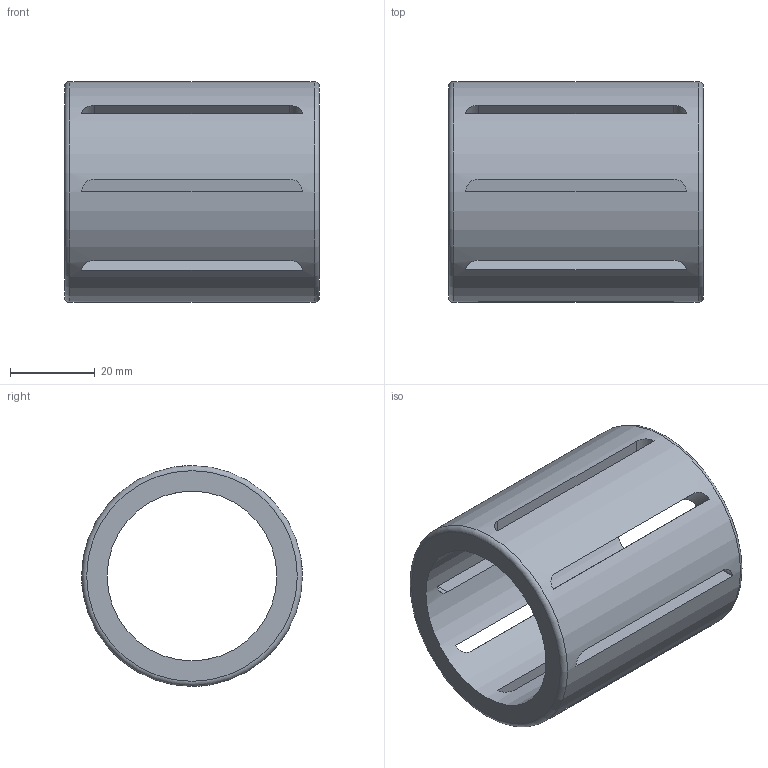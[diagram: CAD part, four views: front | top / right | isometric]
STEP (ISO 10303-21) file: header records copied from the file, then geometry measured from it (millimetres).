
FILE_DESCRIPTION(/* description */ ('Unknown'),/* implementation_level */ '2;1');
FILE_NAME(/* name */ 'KH4060',/* time_stamp */ '2025-02-04T09:53:31+08:00',/* author */ ('Unknown'),/* organization */ ('Unknown'),/* preprocessor_version */ 'ST-DEVELOPER v18.102',/* originating_system */ 'Solid Edge',/* authorisation */ 'Unknown');
FILE_SCHEMA (('AUTOMOTIVE_DESIGN {1 0 10303 214 3 1 1}'));
Length unit declared in the file: millimetre
Products named in the file (1): KH4060
Bounding box: 60 x 52 x 52 mm (x, y, z)
Volume: 44601.7 mm3; surface area: 21642.8 mm2
Topology: 1 solids, 1 shells, 38 faces, 108 edges, 70 vertices
Faces by surface type: cylinder 18, plane 18, torus 2
Full cylindrical faces by diameter (mm): 40 x1, 52 x1
Entity records: 1310 total; most frequent: CARTESIAN_POINT 339, ORIENTED_EDGE 204, DIRECTION 154, EDGE_CURVE 102, VERTEX_POINT 70, LINE 64, VECTOR 64, EDGE_LOOP 60
